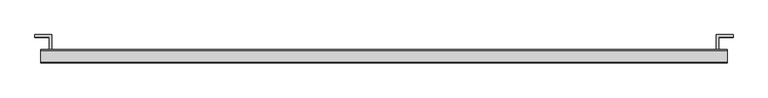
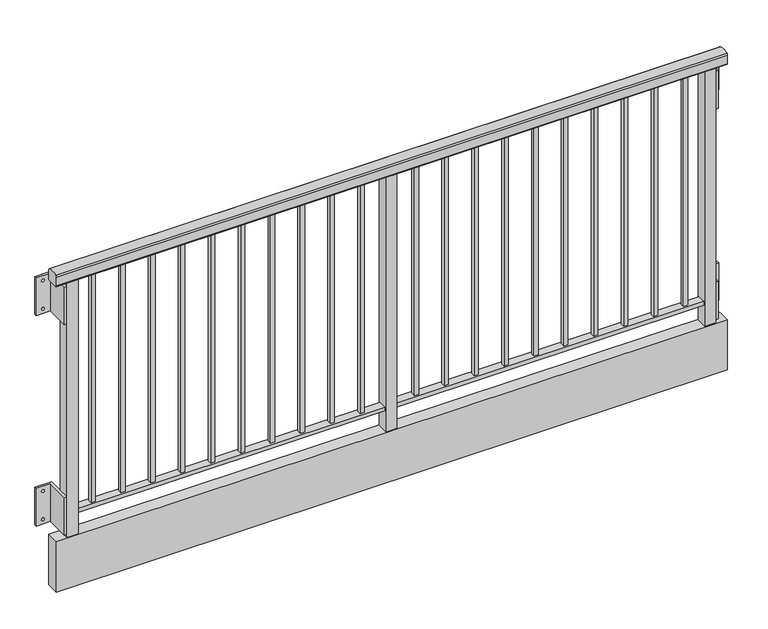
"""IFC4 building model written with IfcOpenShell, lengths in millimetres: proxy geometry, Specialty-Equipment_Endurable-Building-Products_Juliet-Balconies : Vertical Pickets Railing."""

from ifc_helpers import new_model, si_unit, point, frame, frame_2d, origin, origin_with_axes, place, context, project, spatial, polyline, circle_curve, trimmed, segment, composite_curve, outline, extrude, source, transform, mapped, element, save
from ifc_brep_helpers import plane_surface, revolved_surface, advanced_brep


def specialty_equipment_3ed54365(model_context):
    return source(origin(), model_context, "Body", "SolidModel", [
        extrude(outline(polyline([(1140.22505, -72.23125), (1140.22505, -88.10625), (1124.35005, -88.10625), (1124.35005, -72.23125), (1140.22505, -72.23125)])), frame((0.0, 0.0, 97.5357165), z_axis=(0.0, 0.0, 1.0), x_axis=(1.0, 0.0, 0.0)), (0.0, 0.0, 1.0), 931.1679688),
        extrude(outline(polyline([(1025.92505, -72.23125), (1025.92505, -88.10625), (1010.05005, -88.10625), (1010.05005, -72.23125), (1025.92505, -72.23125)])), frame((0.0, 0.0, 97.5357165), z_axis=(0.0, 0.0, 1.0), x_axis=(1.0, 0.0, 0.0)), (0.0, 0.0, 1.0), 931.1679688),
        extrude(outline(polyline([(911.62505, -72.23125), (911.62505, -88.10625), (895.75005, -88.10625), (895.75005, -72.23125), (911.62505, -72.23125)])), frame((0.0, 0.0, 97.5357165), z_axis=(0.0, 0.0, 1.0), x_axis=(1.0, 0.0, 0.0)), (0.0, 0.0, 1.0), 931.1679688),
        extrude(outline(polyline([(797.32505, -72.23125), (797.32505, -88.10625), (781.45005, -88.10625), (781.45005, -72.23125), (797.32505, -72.23125)])), frame((0.0, 0.0, 97.5357165), z_axis=(0.0, 0.0, 1.0), x_axis=(1.0, 0.0, 0.0)), (0.0, 0.0, 1.0), 931.1679688),
        extrude(outline(polyline([(683.02505, -72.23125), (683.02505, -88.10625), (667.15005, -88.10625), (667.15005, -72.23125), (683.02505, -72.23125)])), frame((0.0, 0.0, 97.5357165), z_axis=(0.0, 0.0, 1.0), x_axis=(1.0, 0.0, 0.0)), (0.0, 0.0, 1.0), 931.1679688),
        extrude(outline(polyline([(568.72505, -72.23125), (568.72505, -88.10625), (552.85005, -88.10625), (552.85005, -72.23125), (568.72505, -72.23125)])), frame((0.0, 0.0, 97.5357165), z_axis=(0.0, 0.0, 1.0), x_axis=(1.0, 0.0, 0.0)), (0.0, 0.0, 1.0), 931.1679688),
        extrude(outline(polyline([(454.42505, -72.23125), (454.42505, -88.10625), (438.55005, -88.10625), (438.55005, -72.23125), (454.42505, -72.23125)])), frame((0.0, 0.0, 97.5357165), z_axis=(0.0, 0.0, 1.0), x_axis=(1.0, 0.0, 0.0)), (0.0, 0.0, 1.0), 931.1679688),
        extrude(outline(polyline([(340.12505, -72.23125), (340.12505, -88.10625), (324.25005, -88.10625), (324.25005, -72.23125), (340.12505, -72.23125)])), frame((0.0, 0.0, 97.5357165), z_axis=(0.0, 0.0, 1.0), x_axis=(1.0, 0.0, 0.0)), (0.0, 0.0, 1.0), 931.1679688),
        extrude(outline(polyline([(225.82505, -72.23125), (225.82505, -88.10625), (209.95005, -88.10625), (209.95005, -72.23125), (225.82505, -72.23125)])), frame((0.0, 0.0, 97.5357165), z_axis=(0.0, 0.0, 1.0), x_axis=(1.0, 0.0, 0.0)), (0.0, 0.0, 1.0), 931.1679688),
        extrude(outline(polyline([(-1140.22505, -72.23125), (-1124.35005, -72.23125), (-1124.35005, -88.10625), (-1140.22505, -88.10625), (-1140.22505, -72.23125)])), frame((0.0, 0.0, 97.536), z_axis=(0.0, 0.0, 1.0), x_axis=(1.0, 0.0, 0.0)), (0.0, 0.0, 1.0), 931.1679688),
        extrude(outline(polyline([(-1025.92505, -72.23125), (-1010.05005, -72.23125), (-1010.05005, -88.10625), (-1025.92505, -88.10625), (-1025.92505, -72.23125)])), frame((0.0, 0.0, 97.536), z_axis=(0.0, 0.0, 1.0), x_axis=(1.0, 0.0, 0.0)), (0.0, 0.0, 1.0), 931.1679688),
        extrude(outline(polyline([(-911.62505, -72.23125), (-895.75005, -72.23125), (-895.75005, -88.10625), (-911.62505, -88.10625), (-911.62505, -72.23125)])), frame((0.0, 0.0, 97.536), z_axis=(0.0, 0.0, 1.0), x_axis=(1.0, 0.0, 0.0)), (0.0, 0.0, 1.0), 931.1679688),
        extrude(outline(polyline([(-797.32505, -72.23125), (-781.45005, -72.23125), (-781.45005, -88.10625), (-797.32505, -88.10625), (-797.32505, -72.23125)])), frame((0.0, 0.0, 97.536), z_axis=(0.0, 0.0, 1.0), x_axis=(1.0, 0.0, 0.0)), (0.0, 0.0, 1.0), 931.1679688),
        extrude(outline(polyline([(-683.02505, -72.23125), (-667.15005, -72.23125), (-667.15005, -88.10625), (-683.02505, -88.10625), (-683.02505, -72.23125)])), frame((0.0, 0.0, 97.536), z_axis=(0.0, 0.0, 1.0), x_axis=(1.0, 0.0, 0.0)), (0.0, 0.0, 1.0), 931.1679688),
        extrude(outline(polyline([(-568.72505, -72.23125), (-552.85005, -72.23125), (-552.85005, -88.10625), (-568.72505, -88.10625), (-568.72505, -72.23125)])), frame((0.0, 0.0, 97.536), z_axis=(0.0, 0.0, 1.0), x_axis=(1.0, 0.0, 0.0)), (0.0, 0.0, 1.0), 931.1679688),
        extrude(outline(polyline([(-454.42505, -72.23125), (-438.55005, -72.23125), (-438.55005, -88.10625), (-454.42505, -88.10625), (-454.42505, -72.23125)])), frame((0.0, 0.0, 97.536), z_axis=(0.0, 0.0, 1.0), x_axis=(1.0, 0.0, 0.0)), (0.0, 0.0, 1.0), 931.1679688),
        extrude(outline(polyline([(-340.12505, -72.23125), (-324.25005, -72.23125), (-324.25005, -88.10625), (-340.12505, -88.10625), (-340.12505, -72.23125)])), frame((0.0, 0.0, 97.536), z_axis=(0.0, 0.0, 1.0), x_axis=(1.0, 0.0, 0.0)), (0.0, 0.0, 1.0), 931.1679688),
        extrude(outline(polyline([(-225.82505, -72.23125), (-209.95005, -72.23125), (-209.95005, -88.10625), (-225.82505, -88.10625), (-225.82505, -72.23125)])), frame((0.0, 0.0, 97.536), z_axis=(0.0, 0.0, 1.0), x_axis=(1.0, 0.0, 0.0)), (0.0, 0.0, 1.0), 931.1679688),
        extrude(outline(polyline([(111.52505, -72.23125), (111.52505, -88.10625), (95.65005, -88.10625), (95.65005, -72.23125), (111.52505, -72.23125)])), frame((0.0, 0.0, 97.5357165), z_axis=(0.0, 0.0, 1.0), x_axis=(1.0, 0.0, 0.0)), (0.0, 0.0, 1.0), 931.1679688),
        extrude(outline(polyline([(-111.52505, -72.23125), (-95.65005, -72.23125), (-95.65005, -88.10625), (-111.52505, -88.10625), (-111.52505, -72.23125)])), frame((0.0, 0.0, 97.536), z_axis=(0.0, 0.0, 1.0), x_axis=(1.0, 0.0, 0.0)), (0.0, 0.0, 1.0), 931.1679688),
        extrude(outline(polyline([(-1197.76875, -63.86195), (-21.43125, -63.86195), (-21.43125, -96.47555), (-1197.76875, -96.47555), (-1197.76875, -63.86195)])), frame((0.0, 0.0, 82.55), z_axis=(0.0, 0.0, 1.0), x_axis=(1.0, 0.0, 0.0)), (0.0, 0.0, 1.0), 14.986),
        extrude(outline(polyline([(21.43125, -58.7375), (21.43125, -101.6), (-21.43125, -101.6), (-21.43125, -58.7375), (21.43125, -58.7375)])), origin_with_axes(), (0.0, 0.0, 1.0), 1028.7),
        extrude(outline(polyline([(21.43125, -63.86195), (1197.76875, -63.86195), (1197.76875, -96.47555), (21.43125, -96.47555), (21.43125, -63.86195)])), frame((0.0, 0.0, 82.55), z_axis=(0.0, 0.0, 1.0), x_axis=(1.0, 0.0, 0.0)), (0.0, 0.0, 1.0), 14.986),
        extrude(outline(polyline([(1282.7, -54.76875), (1282.7, -105.56875), (-1282.7, -105.56875), (-1282.7, -54.76875), (1282.7, -54.76875)])), frame((0.0, 0.0, -203.2), z_axis=(0.0, 0.0, 1.0), x_axis=(1.0, 0.0, 0.0)), (0.0, 0.0, 1.0), 203.2),
        extrude(outline(polyline([(-1197.76875, -58.7375), (-1197.76875, -101.6), (-1240.63125, -101.6), (-1240.63125, -58.7375), (-1197.76875, -58.7375)])), origin_with_axes(), (0.0, 0.0, 1.0), 1028.7),
        extrude(outline(polyline([(1240.63125, -58.7375), (1240.63125, -101.6), (1197.76875, -101.6), (1197.76875, -58.7375), (1240.63125, -58.7375)])), origin_with_axes(), (0.0, 0.0, 1.0), 1028.7),
        extrude(outline(composite_curve([segment(polyline([(-54.76875, 1069.1003287), (-54.76875, 1035.05)]), True, "CONTINUOUS"), segment(trimmed(circle_curve(frame_2d((-61.11875, 1035.05)), 6.35), [point((-54.76875, 1035.05))], [point((-61.11875, 1028.7))], False, "CARTESIAN"), True, "CONTINUOUS"), segment(polyline([(-61.11875, 1028.7), (-99.21875, 1028.7)]), True, "CONTINUOUS"), segment(trimmed(circle_curve(frame_2d((-99.21875, 1035.05)), 6.35), [point((-99.21875, 1028.7))], [point((-105.56875, 1035.05))], False, "CARTESIAN"), True, "CONTINUOUS"), segment(polyline([(-105.56875, 1035.05), (-105.56875, 1069.1003287)]), True, "CONTINUOUS"), segment(trimmed(circle_curve(frame_2d((-99.21875, 1069.1003287)), 6.35), [point((-105.56875, 1069.1003287))], [point((-101.8018008, 1074.9012207))], False, "CARTESIAN"), True, "CONTINUOUS"), segment(trimmed(circle_curve(frame_2d((-80.16875, 1026.31875)), 53.18125), [point((-101.8018008, 1074.9012207))], [point((-58.5356992, 1074.9012207))], False, "CARTESIAN"), True, "CONTINUOUS"), segment(trimmed(circle_curve(frame_2d((-61.11875, 1069.1003287)), 6.35), [point((-58.5356992, 1074.9012207))], [point((-54.76875, 1069.1003287))], False, "CARTESIAN"), True, "CONTINUOUS")], self_intersect=False)), frame((-1282.7, 0.0, 0.0), z_axis=(1.0, 0.0, 0.0), x_axis=(0.0, 1.0, 0.0)), (0.0, 0.0, 1.0), 2565.4),
        advanced_brep(
        [(1240.63125, -101.6, 165.1), (1250.15625, -101.6, 165.1), (1250.15625, -9.525, 165.1), (1304.13125, -9.525, 165.1), (1304.13125, 0.0, 165.1), (1240.63125, 0.0, 165.1), (1240.63125, -101.6, 12.7), (1240.63125, 0.0, 12.7), (1304.13125, 0.0, 12.7), (1304.13125, -9.525, 12.7), (1250.15625, -9.525, 12.7), (1250.15625, -101.6, 12.7), (1273.175, 0.0, 146.05), (1284.2875, 0.0, 146.05), (1273.175, 0.0, 31.75), (1284.2875, 0.0, 31.75), (1284.2875, -9.525, 146.05), (1273.175, -9.525, 146.05), (1284.2875, -9.525, 31.75), (1273.175, -9.525, 31.75)],
        [
            (0, 1),
            (1, 2),
            (2, 3),
            (3, 4),
            (4, 5),
            (5, 0),
            (6, 7),
            (7, 8),
            (8, 9),
            (9, 10),
            (10, 11),
            (11, 6),
            (5, 7),
            (6, 0),
            (4, 8),
            (12, 13, circle_curve(frame((1278.73125, 0.0, 146.05), z_axis=(0.0, -1.0, 0.0), x_axis=(-1.0, 0.0, 0.0)), 5.55625)),
            (13, 12, circle_curve(frame((1278.73125, 0.0, 146.05), z_axis=(0.0, -1.0, 0.0), x_axis=(-1.0, 0.0, 0.0)), 5.55625)),
            (14, 15, circle_curve(frame((1278.73125, 0.0, 31.75), z_axis=(0.0, -1.0, 0.0), x_axis=(-1.0, 0.0, 0.0)), 5.55625)),
            (15, 14, circle_curve(frame((1278.73125, 0.0, 31.75), z_axis=(0.0, -1.0, 0.0), x_axis=(-1.0, 0.0, 0.0)), 5.55625)),
            (3, 9),
            (2, 10),
            (16, 17, circle_curve(frame((1278.73125, -9.525, 146.05), z_axis=(0.0, 1.0, 0.0), x_axis=(-1.0, 0.0, 0.0)), 5.55625)),
            (17, 16, circle_curve(frame((1278.73125, -9.525, 146.05), z_axis=(0.0, 1.0, 0.0), x_axis=(-1.0, 0.0, 0.0)), 5.55625)),
            (18, 19, circle_curve(frame((1278.73125, -9.525, 31.75), z_axis=(0.0, 1.0, 0.0), x_axis=(-1.0, 0.0, 0.0)), 5.55625)),
            (19, 18, circle_curve(frame((1278.73125, -9.525, 31.75), z_axis=(0.0, 1.0, 0.0), x_axis=(-1.0, 0.0, 0.0)), 5.55625)),
            (1, 11),
            (16, 13),
            (12, 17),
            (18, 15),
            (14, 19),
        ],
        [
            plane_surface(frame((1240.63125, -101.6, 165.1), z_axis=(0.0, 0.0, 1.0), x_axis=(1.0, 0.0, 0.0))),
            plane_surface(frame((1240.63125, -101.6, 12.7), z_axis=(0.0, 0.0, -1.0), x_axis=(-1.0, 0.0, 0.0))),
            plane_surface(frame((1240.63125, 0.0, 165.1), z_axis=(-1.0, 0.0, 0.0), x_axis=(0.0, 0.0, -1.0))),
            plane_surface(frame((1304.13125, 0.0, 165.1), z_axis=(0.0, 1.0, 0.0), x_axis=(0.0, 0.0, -1.0))),
            plane_surface(frame((1304.13125, -9.525, 165.1), z_axis=(1.0, 0.0, 0.0), x_axis=(0.0, 0.0, -1.0))),
            plane_surface(frame((1250.15625, -9.525, 165.1), z_axis=(0.0, -1.0, 0.0), x_axis=(0.0, 0.0, -1.0))),
            plane_surface(frame((1250.15625, -101.6, 165.1), z_axis=(1.0, 0.0, 0.0), x_axis=(0.0, 0.0, -1.0))),
            plane_surface(frame((1240.63125, -101.6, 165.1), z_axis=(0.0, -1.0, 0.0), x_axis=(0.0, 0.0, -1.0))),
            revolved_surface(polyline([(1273.175, -9.525, 146.05), (1273.175, 0.0, 146.05)]), (1278.73125, 0.0, 146.05), (0.0, -1.0, 0.0)),
            revolved_surface(polyline([(1273.175, -9.525, 31.75), (1273.175, 0.0, 31.75)]), (1278.73125, 0.0, 31.75), (0.0, -1.0, 0.0)),
        ],
        [
            (0, [[1, 2, 3, 4, 5, 6]]),
            (1, [[7, 8, 9, 10, 11, 12]]),
            (2, [[-6, 13, -7, 14]]),
            (3, [[-5, 15, -8, -13], [16, 17], [18, 19]]),
            (4, [[-4, 20, -9, -15]]),
            (5, [[-3, 21, -10, -20], [22, 23], [24, 25]]),
            (6, [[-2, 26, -11, -21]]),
            (7, [[-1, -14, -12, -26]]),
            (8, [[27, -16, 28, -22]]),
            (8, [[-27, -23, -28, -17]]),
            (9, [[29, -18, 30, -24]]),
            (9, [[-29, -25, -30, -19]]),
        ],
    ),
        advanced_brep(
        [(1240.63125, -101.6, 1016.0), (1250.15625, -101.6, 1016.0), (1250.15625, -9.525, 1016.0), (1304.13125, -9.525, 1016.0), (1304.13125, 0.0, 1016.0), (1240.63125, 0.0, 1016.0), (1240.63125, -101.6, 863.6), (1240.63125, 0.0, 863.6), (1304.13125, 0.0, 863.6), (1304.13125, -9.525, 863.6), (1250.15625, -9.525, 863.6), (1250.15625, -101.6, 863.6), (1273.175, 0.0, 996.95), (1284.2875, 0.0, 996.95), (1273.175, 0.0, 882.65), (1284.2875, 0.0, 882.65), (1284.2875, -9.525, 996.95), (1273.175, -9.525, 996.95), (1284.2875, -9.525, 882.65), (1273.175, -9.525, 882.65)],
        [
            (0, 1),
            (1, 2),
            (2, 3),
            (3, 4),
            (4, 5),
            (5, 0),
            (6, 7),
            (7, 8),
            (8, 9),
            (9, 10),
            (10, 11),
            (11, 6),
            (5, 7),
            (6, 0),
            (4, 8),
            (12, 13, circle_curve(frame((1278.73125, 0.0, 996.95), z_axis=(0.0, -1.0, 0.0), x_axis=(-1.0, 0.0, 0.0)), 5.55625)),
            (13, 12, circle_curve(frame((1278.73125, 0.0, 996.95), z_axis=(0.0, -1.0, 0.0), x_axis=(-1.0, 0.0, 0.0)), 5.55625)),
            (14, 15, circle_curve(frame((1278.73125, 0.0, 882.65), z_axis=(0.0, -1.0, 0.0), x_axis=(-1.0, 0.0, 0.0)), 5.55625)),
            (15, 14, circle_curve(frame((1278.73125, 0.0, 882.65), z_axis=(0.0, -1.0, 0.0), x_axis=(-1.0, 0.0, 0.0)), 5.55625)),
            (3, 9),
            (2, 10),
            (16, 17, circle_curve(frame((1278.73125, -9.525, 996.95), z_axis=(0.0, 1.0, 0.0), x_axis=(-1.0, 0.0, 0.0)), 5.55625)),
            (17, 16, circle_curve(frame((1278.73125, -9.525, 996.95), z_axis=(0.0, 1.0, 0.0), x_axis=(-1.0, 0.0, 0.0)), 5.55625)),
            (18, 19, circle_curve(frame((1278.73125, -9.525, 882.65), z_axis=(0.0, 1.0, 0.0), x_axis=(-1.0, 0.0, 0.0)), 5.55625)),
            (19, 18, circle_curve(frame((1278.73125, -9.525, 882.65), z_axis=(0.0, 1.0, 0.0), x_axis=(-1.0, 0.0, 0.0)), 5.55625)),
            (1, 11),
            (16, 13),
            (12, 17),
            (18, 15),
            (14, 19),
        ],
        [
            plane_surface(frame((1240.63125, -101.6, 1016.0), z_axis=(0.0, 0.0, 1.0), x_axis=(1.0, 0.0, 0.0))),
            plane_surface(frame((1240.63125, -101.6, 863.6), z_axis=(0.0, 0.0, -1.0), x_axis=(-1.0, 0.0, 0.0))),
            plane_surface(frame((1240.63125, 0.0, 1016.0), z_axis=(-1.0, 0.0, 0.0), x_axis=(0.0, 0.0, -1.0))),
            plane_surface(frame((1304.13125, 0.0, 1016.0), z_axis=(0.0, 1.0, 0.0), x_axis=(0.0, 0.0, -1.0))),
            plane_surface(frame((1304.13125, -9.525, 1016.0), z_axis=(1.0, 0.0, 0.0), x_axis=(0.0, 0.0, -1.0))),
            plane_surface(frame((1250.15625, -9.525, 1016.0), z_axis=(0.0, -1.0, 0.0), x_axis=(0.0, 0.0, -1.0))),
            plane_surface(frame((1250.15625, -101.6, 1016.0), z_axis=(1.0, 0.0, 0.0), x_axis=(0.0, 0.0, -1.0))),
            plane_surface(frame((1240.63125, -101.6, 1016.0), z_axis=(0.0, -1.0, 0.0), x_axis=(0.0, 0.0, -1.0))),
            revolved_surface(polyline([(1273.175, -9.525, 996.95), (1273.175, 0.0, 996.95)]), (1278.73125, 0.0, 996.95), (0.0, -1.0, 0.0)),
            revolved_surface(polyline([(1273.175, -9.525, 882.65), (1273.175, 0.0, 882.65)]), (1278.73125, 0.0, 882.65), (0.0, -1.0, 0.0)),
        ],
        [
            (0, [[1, 2, 3, 4, 5, 6]]),
            (1, [[7, 8, 9, 10, 11, 12]]),
            (2, [[-6, 13, -7, 14]]),
            (3, [[-5, 15, -8, -13], [16, 17], [18, 19]]),
            (4, [[-4, 20, -9, -15]]),
            (5, [[-3, 21, -10, -20], [22, 23], [24, 25]]),
            (6, [[-2, 26, -11, -21]]),
            (7, [[-1, -14, -12, -26]]),
            (8, [[27, -16, 28, -22]]),
            (8, [[-27, -23, -28, -17]]),
            (9, [[29, -18, 30, -24]]),
            (9, [[-29, -25, -30, -19]]),
        ],
    ),
        advanced_brep(
        [(-1240.63125, -101.6, 165.1), (-1240.63125, 0.0, 165.1), (-1304.13125, 0.0, 165.1), (-1304.13125, -9.525, 165.1), (-1250.15625, -9.525, 165.1), (-1250.15625, -101.6, 165.1), (-1240.63125, -101.6, 12.7), (-1250.15625, -101.6, 12.7), (-1250.15625, -9.525, 12.7), (-1304.13125, -9.525, 12.7), (-1304.13125, 0.0, 12.7), (-1240.63125, 0.0, 12.7), (-1284.2875, 0.0, 146.05), (-1273.175, 0.0, 146.05), (-1284.2875, 0.0, 31.75), (-1273.175, 0.0, 31.75), (-1273.175, -9.525, 146.05), (-1284.2875, -9.525, 146.05), (-1273.175, -9.525, 31.75), (-1284.2875, -9.525, 31.75)],
        [
            (0, 1),
            (1, 2),
            (2, 3),
            (3, 4),
            (4, 5),
            (5, 0),
            (6, 7),
            (7, 8),
            (8, 9),
            (9, 10),
            (10, 11),
            (11, 6),
            (0, 6),
            (11, 1),
            (10, 2),
            (12, 13, circle_curve(frame((-1278.73125, 0.0, 146.05), z_axis=(0.0, -1.0, 0.0), x_axis=(1.0, 0.0, 0.0)), 5.55625)),
            (13, 12, circle_curve(frame((-1278.73125, 0.0, 146.05), z_axis=(0.0, -1.0, 0.0), x_axis=(1.0, 0.0, 0.0)), 5.55625)),
            (14, 15, circle_curve(frame((-1278.73125, 0.0, 31.75), z_axis=(0.0, -1.0, 0.0), x_axis=(1.0, 0.0, 0.0)), 5.55625)),
            (15, 14, circle_curve(frame((-1278.73125, 0.0, 31.75), z_axis=(0.0, -1.0, 0.0), x_axis=(1.0, 0.0, 0.0)), 5.55625)),
            (9, 3),
            (8, 4),
            (16, 17, circle_curve(frame((-1278.73125, -9.525, 146.05), z_axis=(0.0, 1.0, 0.0), x_axis=(1.0, 0.0, 0.0)), 5.55625)),
            (17, 16, circle_curve(frame((-1278.73125, -9.525, 146.05), z_axis=(0.0, 1.0, 0.0), x_axis=(1.0, 0.0, 0.0)), 5.55625)),
            (18, 19, circle_curve(frame((-1278.73125, -9.525, 31.75), z_axis=(0.0, 1.0, 0.0), x_axis=(1.0, 0.0, 0.0)), 5.55625)),
            (19, 18, circle_curve(frame((-1278.73125, -9.525, 31.75), z_axis=(0.0, 1.0, 0.0), x_axis=(1.0, 0.0, 0.0)), 5.55625)),
            (7, 5),
            (16, 13),
            (12, 17),
            (18, 15),
            (14, 19),
        ],
        [
            plane_surface(frame((-1240.63125, 0.0, 165.1), z_axis=(0.0, 0.0, 1.0), x_axis=(0.0, 1.0, 0.0))),
            plane_surface(frame((-1240.63125, 0.0, 12.7), z_axis=(0.0, 0.0, -1.0), x_axis=(0.0, -1.0, 0.0))),
            plane_surface(frame((-1240.63125, -101.6, 165.1), z_axis=(1.0, 0.0, 0.0), x_axis=(0.0, 0.0, -1.0))),
            plane_surface(frame((-1240.63125, 0.0, 165.1), z_axis=(0.0, 1.0, 0.0), x_axis=(0.0, 0.0, -1.0))),
            plane_surface(frame((-1304.13125, 0.0, 165.1), z_axis=(-1.0, 0.0, 0.0), x_axis=(0.0, 0.0, -1.0))),
            plane_surface(frame((-1304.13125, -9.525, 165.1), z_axis=(0.0, -1.0, 0.0), x_axis=(0.0, 0.0, -1.0))),
            plane_surface(frame((-1250.15625, -9.525, 165.1), z_axis=(-1.0, 0.0, 0.0), x_axis=(0.0, 0.0, -1.0))),
            plane_surface(frame((-1250.15625, -101.6, 165.1), z_axis=(0.0, -1.0, 0.0), x_axis=(0.0, 0.0, -1.0))),
            revolved_surface(polyline([(-1273.175, -9.525, 146.05), (-1273.175, 0.0, 146.05)]), (-1278.73125, 0.0, 146.05), (0.0, -1.0, 0.0)),
            revolved_surface(polyline([(-1273.175, -9.525, 31.75), (-1273.175, 0.0, 31.75)]), (-1278.73125, 0.0, 31.75), (0.0, -1.0, 0.0)),
        ],
        [
            (0, [[1, 2, 3, 4, 5, 6]]),
            (1, [[7, 8, 9, 10, 11, 12]]),
            (2, [[-1, 13, -12, 14]]),
            (3, [[-2, -14, -11, 15], [16, 17], [18, 19]]),
            (4, [[-3, -15, -10, 20]]),
            (5, [[-4, -20, -9, 21], [22, 23], [24, 25]]),
            (6, [[-5, -21, -8, 26]]),
            (7, [[-6, -26, -7, -13]]),
            (8, [[27, -16, 28, -22]]),
            (8, [[-27, -23, -28, -17]]),
            (9, [[29, -18, 30, -24]]),
            (9, [[-29, -25, -30, -19]]),
        ],
    ),
        advanced_brep(
        [(-1240.63125, -101.6, 1016.0), (-1240.63125, 0.0, 1016.0), (-1304.13125, 0.0, 1016.0), (-1304.13125, -9.525, 1016.0), (-1250.15625, -9.525, 1016.0), (-1250.15625, -101.6, 1016.0), (-1240.63125, -101.6, 863.6), (-1250.15625, -101.6, 863.6), (-1250.15625, -9.525, 863.6), (-1304.13125, -9.525, 863.6), (-1304.13125, 0.0, 863.6), (-1240.63125, 0.0, 863.6), (-1284.2875, 0.0, 996.95), (-1273.175, 0.0, 996.95), (-1284.2875, 0.0, 882.65), (-1273.175, 0.0, 882.65), (-1273.175, -9.525, 996.95), (-1284.2875, -9.525, 996.95), (-1273.175, -9.525, 882.65), (-1284.2875, -9.525, 882.65)],
        [
            (0, 1),
            (1, 2),
            (2, 3),
            (3, 4),
            (4, 5),
            (5, 0),
            (6, 7),
            (7, 8),
            (8, 9),
            (9, 10),
            (10, 11),
            (11, 6),
            (0, 6),
            (11, 1),
            (10, 2),
            (12, 13, circle_curve(frame((-1278.73125, 0.0, 996.95), z_axis=(0.0, -1.0, 0.0), x_axis=(1.0, 0.0, 0.0)), 5.55625)),
            (13, 12, circle_curve(frame((-1278.73125, 0.0, 996.95), z_axis=(0.0, -1.0, 0.0), x_axis=(1.0, 0.0, 0.0)), 5.55625)),
            (14, 15, circle_curve(frame((-1278.73125, 0.0, 882.65), z_axis=(0.0, -1.0, 0.0), x_axis=(1.0, 0.0, 0.0)), 5.55625)),
            (15, 14, circle_curve(frame((-1278.73125, 0.0, 882.65), z_axis=(0.0, -1.0, 0.0), x_axis=(1.0, 0.0, 0.0)), 5.55625)),
            (9, 3),
            (8, 4),
            (16, 17, circle_curve(frame((-1278.73125, -9.525, 996.95), z_axis=(0.0, 1.0, 0.0), x_axis=(1.0, 0.0, 0.0)), 5.55625)),
            (17, 16, circle_curve(frame((-1278.73125, -9.525, 996.95), z_axis=(0.0, 1.0, 0.0), x_axis=(1.0, 0.0, 0.0)), 5.55625)),
            (18, 19, circle_curve(frame((-1278.73125, -9.525, 882.65), z_axis=(0.0, 1.0, 0.0), x_axis=(1.0, 0.0, 0.0)), 5.55625)),
            (19, 18, circle_curve(frame((-1278.73125, -9.525, 882.65), z_axis=(0.0, 1.0, 0.0), x_axis=(1.0, 0.0, 0.0)), 5.55625)),
            (7, 5),
            (16, 13),
            (12, 17),
            (18, 15),
            (14, 19),
        ],
        [
            plane_surface(frame((-1240.63125, 0.0, 1016.0), z_axis=(0.0, 0.0, 1.0), x_axis=(0.0, 1.0, 0.0))),
            plane_surface(frame((-1240.63125, 0.0, 863.6), z_axis=(0.0, 0.0, -1.0), x_axis=(0.0, -1.0, 0.0))),
            plane_surface(frame((-1240.63125, -101.6, 1016.0), z_axis=(1.0, 0.0, 0.0), x_axis=(0.0, 0.0, -1.0))),
            plane_surface(frame((-1240.63125, 0.0, 1016.0), z_axis=(0.0, 1.0, 0.0), x_axis=(0.0, 0.0, -1.0))),
            plane_surface(frame((-1304.13125, 0.0, 1016.0), z_axis=(-1.0, 0.0, 0.0), x_axis=(0.0, 0.0, -1.0))),
            plane_surface(frame((-1304.13125, -9.525, 1016.0), z_axis=(0.0, -1.0, 0.0), x_axis=(0.0, 0.0, -1.0))),
            plane_surface(frame((-1250.15625, -9.525, 1016.0), z_axis=(-1.0, 0.0, 0.0), x_axis=(0.0, 0.0, -1.0))),
            plane_surface(frame((-1250.15625, -101.6, 1016.0), z_axis=(0.0, -1.0, 0.0), x_axis=(0.0, 0.0, -1.0))),
            revolved_surface(polyline([(-1273.175, -9.525, 996.95), (-1273.175, 0.0, 996.95)]), (-1278.73125, 0.0, 996.95), (0.0, -1.0, 0.0)),
            revolved_surface(polyline([(-1273.175, -9.525, 882.65), (-1273.175, 0.0, 882.65)]), (-1278.73125, 0.0, 882.65), (0.0, -1.0, 0.0)),
        ],
        [
            (0, [[1, 2, 3, 4, 5, 6]]),
            (1, [[7, 8, 9, 10, 11, 12]]),
            (2, [[-1, 13, -12, 14]]),
            (3, [[-2, -14, -11, 15], [16, 17], [18, 19]]),
            (4, [[-3, -15, -10, 20]]),
            (5, [[-4, -20, -9, 21], [22, 23], [24, 25]]),
            (6, [[-5, -21, -8, 26]]),
            (7, [[-6, -26, -7, -13]]),
            (8, [[27, -16, 28, -22]]),
            (8, [[-27, -23, -28, -17]]),
            (9, [[29, -18, 30, -24]]),
            (9, [[-29, -25, -30, -19]]),
        ],
    ),
    ])


if __name__ == "__main__":
    model = new_model("IFC4")
    model_context = context("Model", 3, world=origin())
    ifc_project = project(units=[si_unit("LENGTHUNIT", "METRE", prefix="MILLI")], contexts=[model_context])
    site = spatial("IfcSite", under=ifc_project)
    building = spatial("IfcBuilding", under=site)
    placement = place(None, origin())
    specialty_equipment_shape = specialty_equipment_3ed54365(model_context)
    element("IfcBuildingElementProxy", 1, Name="Specialty-Equipment_Endurable-Building-Products_Juliet-Balconies : Vertical Pickets Railing", ObjectType="Specialty-Equipment_Endurable-Building-Products_Juliet-Balconies : Vertical Pickets Railing", at=placement, inside=building, context=model_context, shape_type="MappedRepresentation", body=[
        mapped(specialty_equipment_shape, transform((0.0, 0.0, 0.0), x_axis=(1.0, 0.0, 0.0), y_axis=(0.0, 1.0, 0.0), z_axis=(0.0, 0.0, 1.0))),
    ])
    save(model, "model.ifc")
